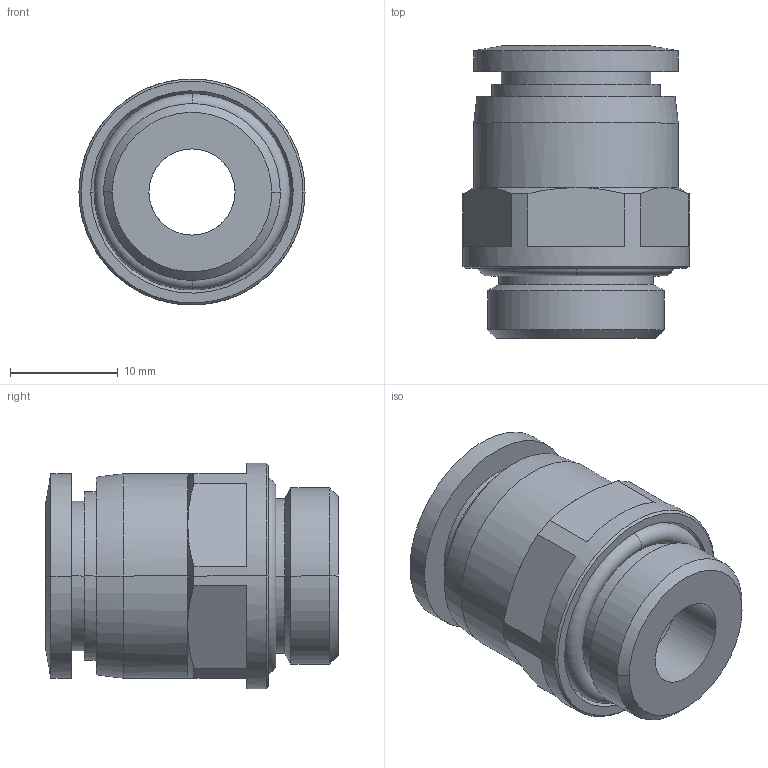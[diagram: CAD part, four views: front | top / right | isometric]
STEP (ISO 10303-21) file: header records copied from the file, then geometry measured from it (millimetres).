
FILE_DESCRIPTION (( 'STEP AP203' ), '1' );
FILE_NAME ('FH12-03.STEP', '2020-05-06T14:36:40', ( '' ), ( '' ), 'SwSTEP 2.0', 'SolidWorks 2019', '' );
FILE_SCHEMA (( 'CONFIG_CONTROL_DESIGN' ));
Length unit declared in the file: millimetre
Products named in the file (1): FH12-03
Bounding box: 21 x 27.2 x 20.99 mm (x, y, z)
Surface area: 3780.9 mm2 (no closed solid volume)
Topology: 0 solids, 4 shells, 66 faces, 155 edges, 98 vertices
Faces by surface type: plane 21, cylinder 20, cone 19, torus 6
Entity records: 3253 total; most frequent: CARTESIAN_POINT 1900, ORIENTED_EDGE 294, DIRECTION 179, EDGE_CURVE 155, B_SPLINE_CURVE_WITH_KNOTS 116, VERTEX_POINT 98, EDGE_LOOP 75, AXIS2_PLACEMENT_3D 73
